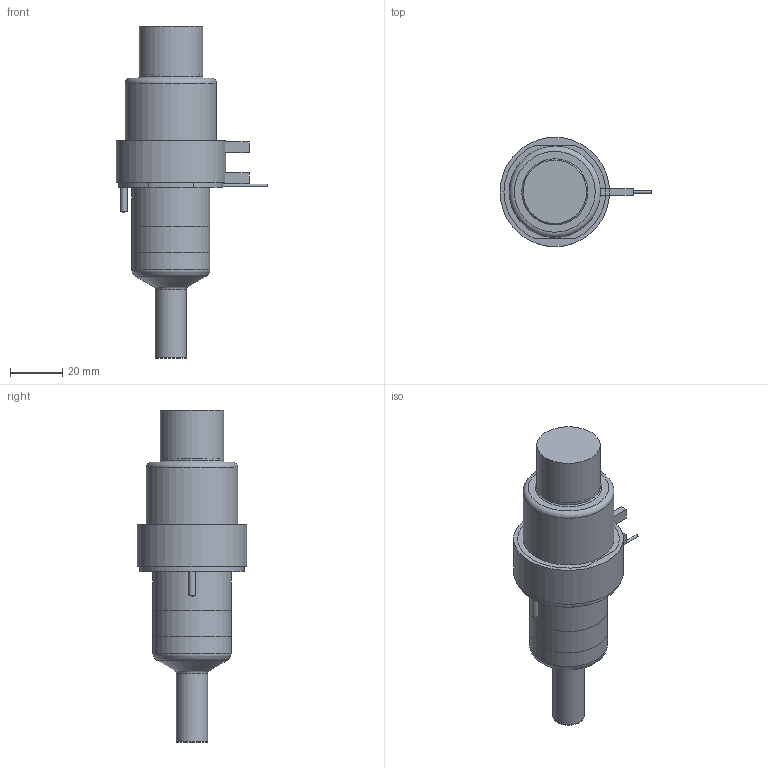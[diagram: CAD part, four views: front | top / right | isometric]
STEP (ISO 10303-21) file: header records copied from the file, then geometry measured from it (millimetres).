
FILE_DESCRIPTION(/* description */ (''),/* implementation_level */ '2;1');
FILE_NAME(/* name */ 'SXTSX-SXISX-SXOSX16045_200C_b',/* time_stamp */ '2008-04-30T09:07:07+12:00',/* author */ (''),/* organization */ (''),/* preprocessor_version */ 'ST-DEVELOPER v9',/* originating_system */ 'UGS - NX 4.0',/* authorisation */ '');
FILE_SCHEMA (('CONFIG_CONTROL_DESIGN'));
Length unit declared in the file: millimetre
Products named in the file (1): SXTSX-SXISX-SXOSX16045_200C_b
Bounding box: 58.25 x 42 x 127.37 mm (x, y, z)
Volume: 153221.3 mm3; surface area: 28159.4 mm2
Topology: 7 solids, 7 shells, 92 faces, 180 edges, 116 vertices
Faces by surface type: plane 45, cylinder 28, torus 9, cone 9, bspline 1
Full cylindrical faces by diameter (mm): 1 x4, 2.5 x2, 7 x1, 11.61 x1, 12.01 x2, 14.8 x1, 24 x1, 24.4 x1, 25.4 x1, 30 x2, 31.8 x1, 35 x1, 40 x1, 42 x1
Entity records: 2250 total; most frequent: CARTESIAN_POINT 438, DIRECTION 382, ORIENTED_EDGE 268, AXIS2_PLACEMENT_3D 166, EDGE_LOOP 142, EDGE_CURVE 134, VERTEX_POINT 107, ADVANCED_FACE 92
